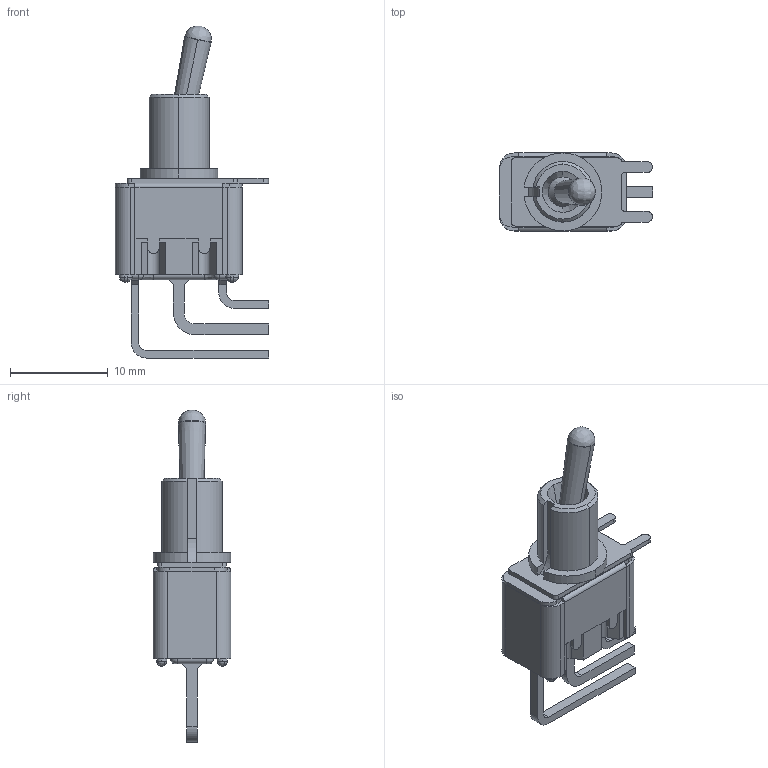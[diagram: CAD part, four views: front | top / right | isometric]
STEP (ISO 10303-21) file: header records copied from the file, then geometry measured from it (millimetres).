
FILE_DESCRIPTION (( 'STEP AP203' ), '1' );
FILE_NAME ('STM 106 D-VM.stp', '2017-01-06T04:10:58', ( '' ), ( '' ), 'SwSTEP 2.0', 'SolidWorks 2015', '' );
FILE_SCHEMA (( 'CONFIG_CONTROL_DESIGN' ));
Length unit declared in the file: millimetre
Products named in the file (10): ボックス（0056）（0060）（0102）改6_1; プート（0022）（0078）改2; 俤儁僢僩乮0060乯奜娤恾梡_1; フー（1031)(1032)(1033）(1034)(1035)(1036)(1037)(1038)(1039)(1040)_1; ツマミ（0025R）改3_1; 僐愙揰乮0041乯乮0046乯乮0062乯夵4倁俵嬋偘俙; シジダ（0029）（0039）（0076）改3VM曲げ; 僐愙揰乮0041乯乮0046乯乮0062乯夵4倁俵嬋偘俛; スーブ(0089R)改4_1; STM 106 D-VM
Assembly tree (9 placements, depth 2):
  STM 106 D-VM
    ボックス（0056）（0060）（0102）改6_1
    ツマミ（0025R）改3_1
    スーブ(0089R)改4_1
    プート（0022）（0078）改2
    フー（1031)(1032)(1033）(1034)(1035)(1036)(1037)(1038)(1039)(1040)_1
    シジダ（0029）（0039）（0076）改3VM曲げ
    僐愙揰乮0041乯乮0046乯乮0062乯夵4倁俵嬋偘俙
    僐愙揰乮0041乯乮0046乯乮0062乯夵4倁俵嬋偘俛
    俤儁僢僩乮0060乯奜娤恾梡_1
Bounding box: 15.7 x 8 x 34.05 mm (x, y, z)
Volume: 894.2 mm3; surface area: 2314 mm2
Topology: 9 solids, 9 shells, 467 faces, 1234 edges, 766 vertices
Faces by surface type: plane 242, cylinder 163, bspline 41, cone 13, torus 8
Entity records: 16257 total; most frequent: CARTESIAN_POINT 3892, ORIENTED_EDGE 2400, DIRECTION 2307, EDGE_CURVE 1200, LINE 797, VECTOR 797, VERTEX_POINT 766, AXIS2_PLACEMENT_3D 755
